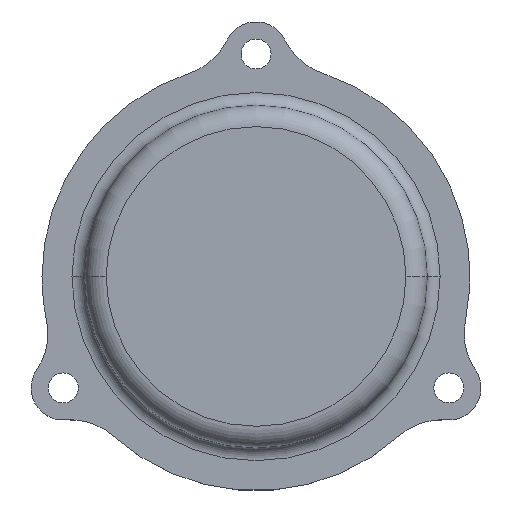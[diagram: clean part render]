
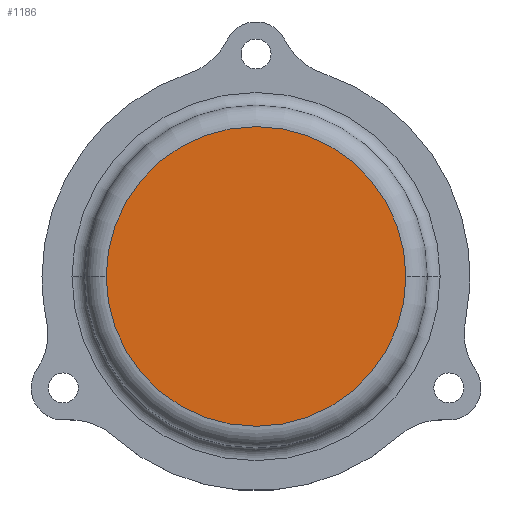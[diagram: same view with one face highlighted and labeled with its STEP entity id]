
A CAD part, top view. The second image highlights one B-rep face of the part: STEP entity #1186.
In plain terms, the highlighted planar face has unit normal (0, 0, 1).
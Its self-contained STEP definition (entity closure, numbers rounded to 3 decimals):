
#9 = CIRCLE ( 'NONE', #1087, 35. ) ;
#35 = CIRCLE ( 'NONE', #1159, 35. ) ;
#75 = VERTEX_POINT ( 'NONE', #886 ) ;
#110 = ORIENTED_EDGE ( 'NONE', *, *, #1065, .T. ) ;
#257 = FACE_OUTER_BOUND ( 'NONE', #419, .T. ) ;
#316 = VERTEX_POINT ( 'NONE', #823 ) ;
#416 = ORIENTED_EDGE ( 'NONE', *, *, #1163, .T. ) ;
#419 = EDGE_LOOP ( 'NONE', ( #110, #416 ) ) ;
#564 = DIRECTION ( 'NONE',  ( 1., 0., 0. ) ) ;
#722 = DIRECTION ( 'NONE',  ( 1., 0., 0. ) ) ;
#764 = CARTESIAN_POINT ( 'NONE',  ( 0., 0., 24. ) ) ;
#767 = PLANE ( 'NONE',  #1155 ) ;
#768 = DIRECTION ( 'NONE',  ( 0., 0., 1. ) ) ;
#823 = CARTESIAN_POINT ( 'NONE',  ( 35., 0., 24. ) ) ;
#886 = CARTESIAN_POINT ( 'NONE',  ( -35., 0., 24. ) ) ;
#891 = DIRECTION ( 'NONE',  ( 1., 0., 0. ) ) ;
#892 = DIRECTION ( 'NONE',  ( 0., 0., 1. ) ) ;
#895 = CARTESIAN_POINT ( 'NONE',  ( 0., 0., 24. ) ) ;
#960 = CARTESIAN_POINT ( 'NONE',  ( 0., 0., 24. ) ) ;
#962 = DIRECTION ( 'NONE',  ( 0., 0., 1. ) ) ;
#1065 = EDGE_CURVE ( 'NONE', #316, #75, #9, .T. ) ;
#1087 = AXIS2_PLACEMENT_3D ( 'NONE', #960, #962, #564 ) ;
#1155 = AXIS2_PLACEMENT_3D ( 'NONE', #764, #768, #722 ) ;
#1159 = AXIS2_PLACEMENT_3D ( 'NONE', #895, #892, #891 ) ;
#1163 = EDGE_CURVE ( 'NONE', #75, #316, #35, .T. ) ;
#1186 = ADVANCED_FACE ( 'NONE', ( #257 ), #767, .T. ) ;
